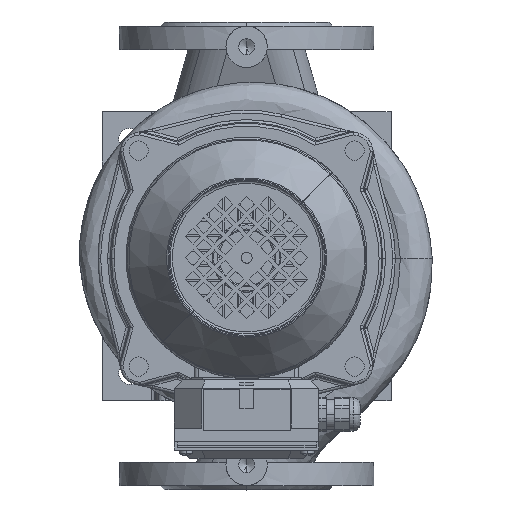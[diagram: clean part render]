
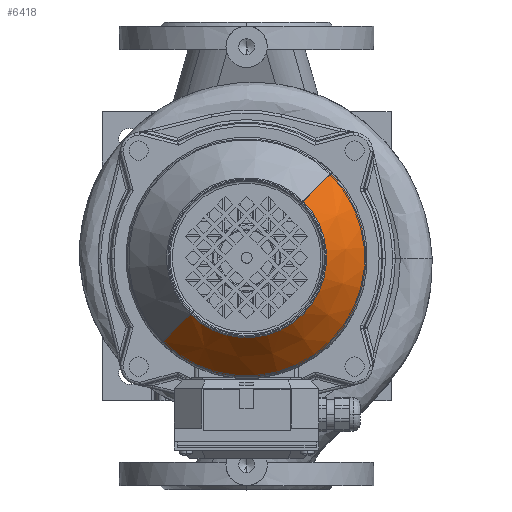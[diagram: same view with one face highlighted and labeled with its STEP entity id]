
A CAD part, top view. The second image highlights one B-rep face of the part: STEP entity #6418.
In plain terms, the highlighted conical face has half-angle 37 degrees and reference radius 58.108 mm.
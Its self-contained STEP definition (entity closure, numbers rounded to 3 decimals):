
#6418=ADVANCED_FACE('NONE',(#15026),#15027,.T.);
#15026=FACE_OUTER_BOUND('',#31265,.T.);
#15027=CONICAL_SURFACE('',#31266,58.108,0.646);
#31265=EDGE_LOOP('',(#48617,#48618,#48619,#48620));
#31266=AXIS2_PLACEMENT_3D('',#48621,#48622,#48623);
#48617=ORIENTED_EDGE('',*,*,#56574,.T.);
#48618=ORIENTED_EDGE('',*,*,#56652,.T.);
#48619=ORIENTED_EDGE('',*,*,#56575,.T.);
#48620=ORIENTED_EDGE('',*,*,#56678,.F.);
#48621=CARTESIAN_POINT('',(0.0,96.403,0.0));
#48622=DIRECTION('',(-0.0,-1.0,-0.0));
#48623=DIRECTION('',(0.0,0.0,-1.0));
#56574=EDGE_CURVE('',#69117,#69120,#69121,.T.);
#56575=EDGE_CURVE('',#69122,#69115,#69123,.T.);
#56652=EDGE_CURVE('NONE',#69120,#69122,#69254,.T.);
#56678=EDGE_CURVE('NONE',#69117,#69115,#69286,.T.);
#69115=VERTEX_POINT('',#92337);
#69117=VERTEX_POINT('NONE',#92339);
#69120=VERTEX_POINT('NONE',#92342);
#69121=LINE('',#92343,#92344);
#69122=VERTEX_POINT('',#92345);
#69123=LINE('',#92346,#92347);
#69254=CIRCLE('',#92840,86.592);
#69286=CIRCLE('',#93070,58.108);
#92337=CARTESIAN_POINT('',(0.,96.403,58.108));
#92339=CARTESIAN_POINT('',(0.,96.403,-58.108));
#92342=CARTESIAN_POINT('',(0.0,58.603,-86.592));
#92343=CARTESIAN_POINT('',(0.,96.403,-58.108));
#92344=VECTOR('',#102848,1.0);
#92345=CARTESIAN_POINT('',(0.,58.603,86.592));
#92346=CARTESIAN_POINT('',(0.,96.403,58.108));
#92347=VECTOR('',#102849,1.0);
#92840=AXIS2_PLACEMENT_3D('',#102976,#102977,#102978);
#93070=AXIS2_PLACEMENT_3D('',#103036,#103037,#103038);
#102848=DIRECTION('',(0.,-0.799,-0.602));
#102849=DIRECTION('',(0.,0.799,-0.602));
#102976=CARTESIAN_POINT('',(0.0,58.603,0.0));
#102977=DIRECTION('',(-0.0,1.0,0.0));
#102978=DIRECTION('',(0.0,0.0,1.0));
#103036=CARTESIAN_POINT('',(0.0,96.403,0.0));
#103037=DIRECTION('',(-0.0,1.0,0.0));
#103038=DIRECTION('',(0.0,0.0,1.0));
